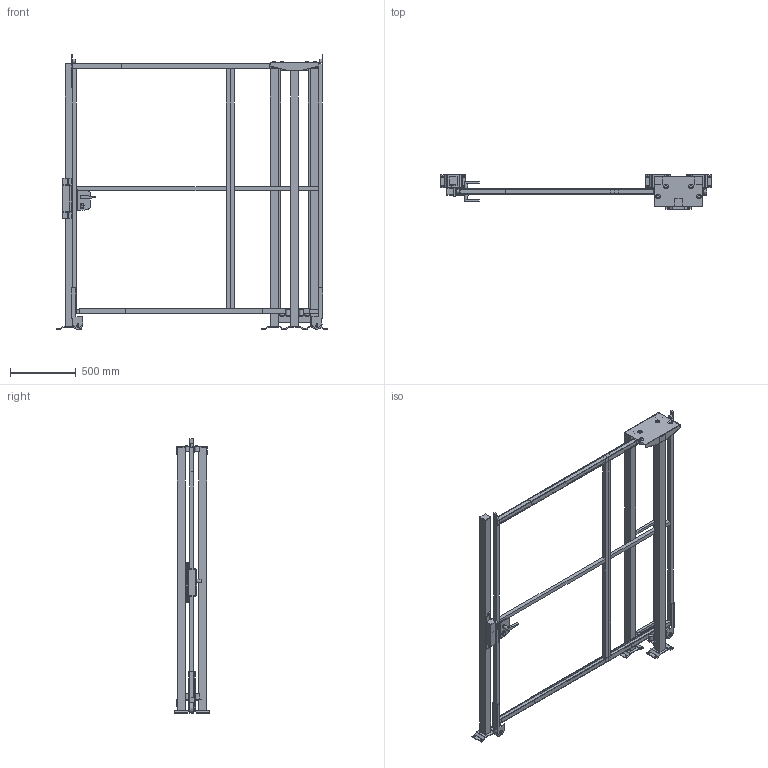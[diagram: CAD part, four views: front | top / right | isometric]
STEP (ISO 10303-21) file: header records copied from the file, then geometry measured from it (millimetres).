
FILE_DESCRIPTION(/* description */ (''),/* implementation_level */ '2;1');
FILE_NAME(/* name */ 'C:\SafeGuarding\ELABORATI\KLADKOUGAMMA_2025-03-20-13-20-37.stp',/* time_stamp */ '2025-03-20T13:20:39+01:00',/* author */ ('admin'),/* organization */ (''),/* preprocessor_version */ 'ST-DEVELOPER v18.1',/* originating_system */ 'AutoCAD Mechanical',/* authorisation */ '');
FILE_SCHEMA (('AUTOMOTIVE_DESIGN { 1 0 10303 214 3 1 1 }','FEATURE_BASED_PROCESS_PLANNING','PROCESS_PLANNING_SCHEMA','AP242_MANAGED_MODEL_BASED_3D_ENGINEERING_MIM_LF { 1 0 10303 442 1 1 4 }'));
Length unit declared in the file: millimetre
Products named in the file (5): Product; R_VFPA.REPE30.07001900; R_VFPA.REPE30.12001900; R_VFPA.REPE20.02501900; P_VFMA.V260SDU.2020
Assembly tree (7 placements, depth 2):
  Product
    R_VFPA.REPE30.07001900
    R_VFPA.REPE30.12001900
    P_VFMA.V260SDU.2020  x4
    R_VFPA.REPE20.02501900
Bounding box: 2062 x 264 x 2090.02 mm (x, y, z)
Volume: 47071157.4 mm3; surface area: 6356688.9 mm2
Topology: 68 solids, 68 shells, 608 faces, 1722 edges, 1669 vertices
Faces by surface type: plane 530, cylinder 74, bspline 4
Full cylindrical faces by diameter (mm): 9 x4, 11 x16, 13 x4, 18 x1, 25 x2, 25.398 x2, 30 x6, 36 x8, 80 x2
Entity records: 17961 total; most frequent: CARTESIAN_POINT 4639, DIRECTION 2654, ORIENTED_EDGE 2374, LINE 1202, VECTOR 1202, EDGE_CURVE 1187, VERTEX_POINT 798, AXIS2_PLACEMENT_3D 726
